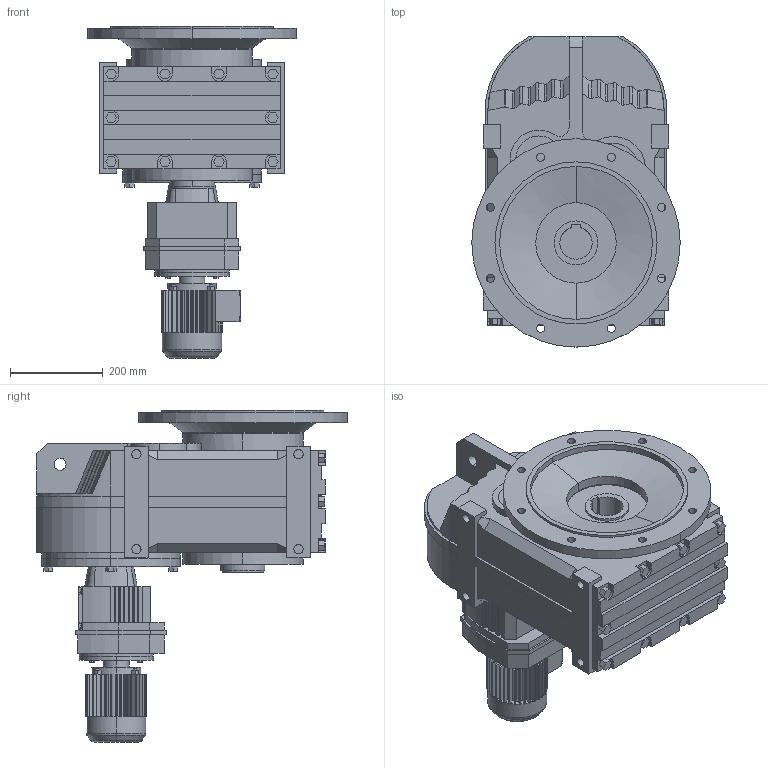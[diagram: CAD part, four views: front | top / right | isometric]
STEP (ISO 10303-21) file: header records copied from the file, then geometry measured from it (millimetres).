
FILE_DESCRIPTION(('Open CASCADE Model'),'2;1');
FILE_NAME('Open CASCADE Shape Model','2021-07-24T11:23:04',('Author'),( 'Open CASCADE'),'Open CASCADE STEP processor 6.3','Open CASCADE 6.3' ,'Unknown');
FILE_SCHEMA(('AUTOMOTIVE_DESIGN_CC2 { 1 2 10303 214 -1 1 5 4 }'));
Length unit declared in the file: millimetre
Products named in the file (6): 1_FAF97R57DR63; FAZ27‵157_97.step; 萇儂_160-DR63-185-240-132-105.step; R_97_57.step; す瑩諾陑粣F_97.step; 楊擘F_97.step
Assembly tree (5 placements, depth 2):
  1_FAF97R57DR63
    FAZ27‵157_97.step
    萇儂_160-DR63-185-240-132-105.step
    R_97_57.step
    す瑩諾陑粣F_97.step
    楊擘F_97.step
Bounding box: 450 x 670 x 717 mm (x, y, z)
Volume: 62413547.5 mm3; surface area: 2184799.7 mm2
Topology: 5 solids, 5 shells, 1039 faces, 2745 edges, 1796 vertices
Faces by surface type: plane 756, cylinder 249, bspline 16, cone 14, torus 4
Entity records: 70031 total; most frequent: CARTESIAN_POINT 16936, DIRECTION 9348, LINE 5509, VECTOR 5509, ORIENTED_EDGE 5490, PCURVE 5490, DEFINITIONAL_REPRESENTATION 5490, EDGE_CURVE 2745
